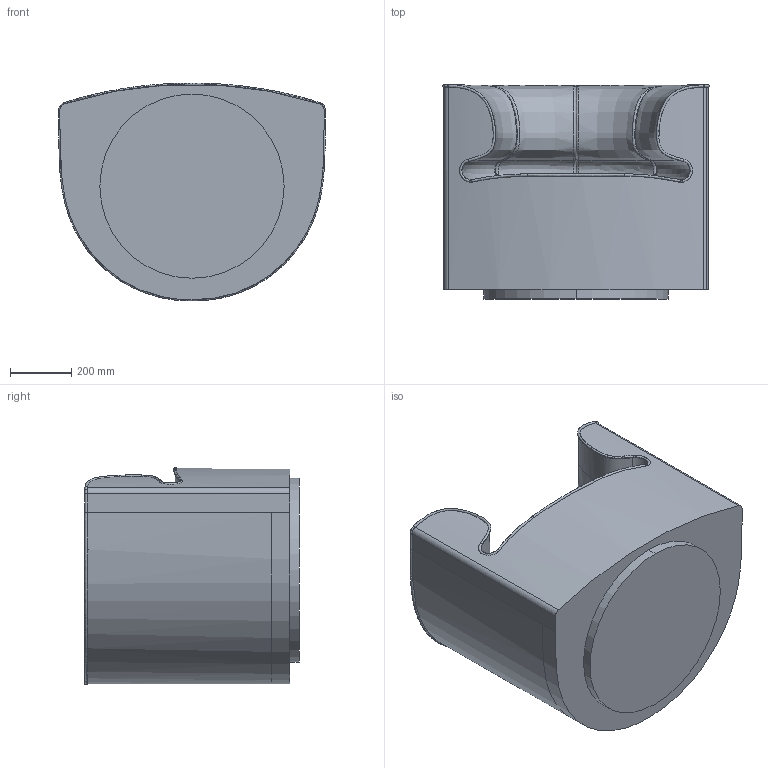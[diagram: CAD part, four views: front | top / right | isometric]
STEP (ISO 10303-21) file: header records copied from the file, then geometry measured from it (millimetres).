
FILE_DESCRIPTION (( 'STEP AP214' ), '1' );
FILE_NAME ('Eave Lounge Chair for marketing.STEP', '2026-05-28T13:39:46', ( '' ), ( '' ), 'SwSTEP 2.0', 'SolidWorks 2024', '' );
FILE_SCHEMA (( 'AUTOMOTIVE_DESIGN' ));
Length unit declared in the file: millimetre
Products named in the file (1): Eave Lounge Chair for marketing
Bounding box: 868 x 697.53 x 709.98 mm (x, y, z)
Volume: 253015762.2 mm3; surface area: 3841652.3 mm2
Topology: 2 solids, 2 shells, 135 faces, 365 edges, 224 vertices
Faces by surface type: bspline 74, cylinder 39, plane 21, torus 1
Entity records: 15617 total; most frequent: CARTESIAN_POINT 12983, ORIENTED_EDGE 734, EDGE_CURVE 367, B_SPLINE_CURVE_WITH_KNOTS 286, VERTEX_POINT 226, DIRECTION 217, EDGE_LOOP 135, FACE_OUTER_BOUND 135
